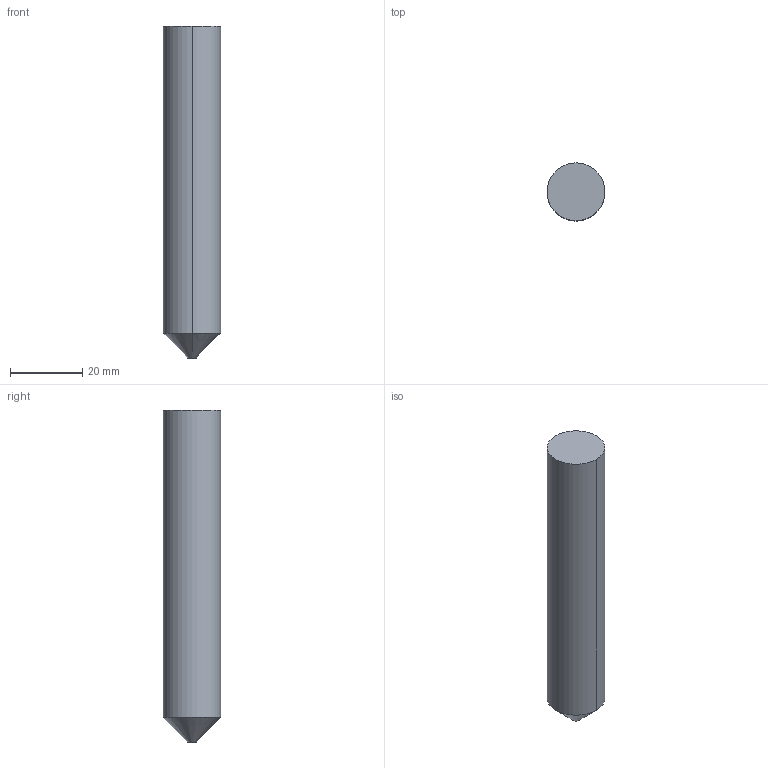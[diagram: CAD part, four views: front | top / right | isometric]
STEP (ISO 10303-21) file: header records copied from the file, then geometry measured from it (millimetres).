
FILE_DESCRIPTION((' '),'2;1');
FILE_NAME( '5HCM16003B.stp', '2026-01-21T09:09:07', (' '), ('--- Datakit www.datakit.com---'), ' Datakit CrossCadWare V2025.4 Sep 19 2025', 'Mastercam 2027', ' ');
FILE_SCHEMA(('AUTOMOTIVE_DESIGN { 1 0 10303 214 1 1 1 1 }'));
Length unit declared in the file: inch
Products named in the file (1): 5HCM16003B
Bounding box: 16 x 16 x 92 mm (x, y, z)
Volume: 17648.7 mm3; surface area: 4762.4 mm2
Topology: 1 solids, 1 shells, 8 faces, 14 edges, 8 vertices
Faces by surface type: cylinder 4, plane 2, cone 2
Entity records: 264 total; most frequent: DIRECTION 48, CARTESIAN_POINT 35, ORIENTED_EDGE 28, AXIS2_PLACEMENT_3D 21, EDGE_CURVE 14, VERTEX_POINT 8, CIRCLE 8, EDGE_LOOP 8
